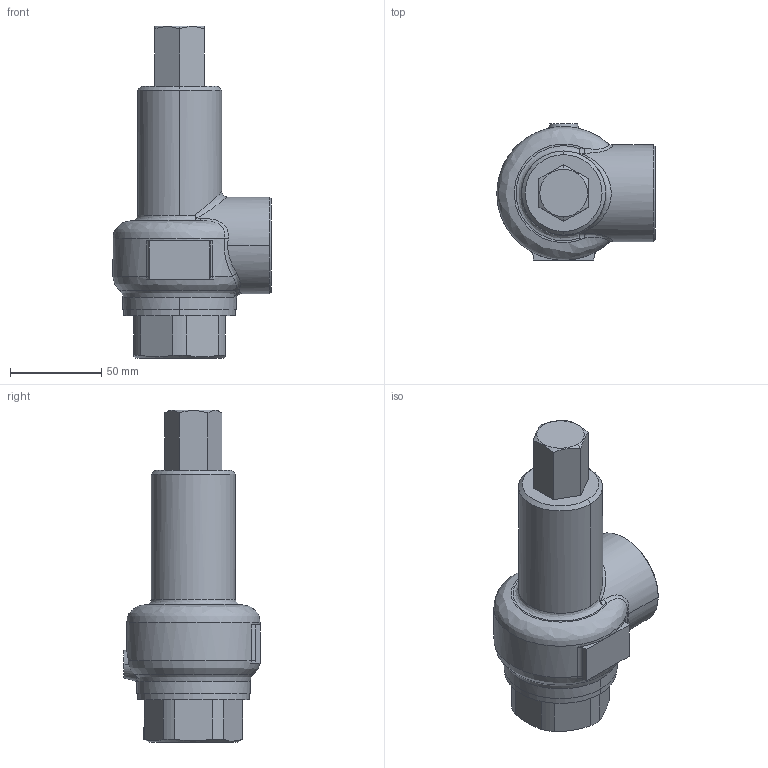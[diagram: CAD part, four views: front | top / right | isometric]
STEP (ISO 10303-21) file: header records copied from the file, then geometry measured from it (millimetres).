
FILE_DESCRIPTION( (''), '2;1');
FILE_NAME ('PC1027.9568.AL-140 32A_8242.stp','2025-07-28T13:40:44',(''),(''),'spGate 19.8.4 (****-****-****-****)','','');
FILE_SCHEMA (('AUTOMOTIVE_DESIGN'));
Length unit declared in the file: millimetre
Products named in the file (2): Assembly; AL-140 32A-3D
Assembly tree (1 placements, depth 2):
  Assembly
    AL-140 32A-3D
Bounding box: 86.49 x 74.5 x 181.5 mm (x, y, z)
Volume: 391741.8 mm3; surface area: 42303.5 mm2
Topology: 1 solids, 1 shells, 87 faces, 213 edges, 133 vertices
Faces by surface type: bspline 36, plane 30, cylinder 19, sphere 2
Entity records: 5651 total; most frequent: CARTESIAN_POINT 2120, ORIENTED_EDGE 426, DIRECTION 321, COLOUR_RGB 301, PRESENTATION_STYLE_ASSIGNMENT 301, STYLED_ITEM 301, EDGE_CURVE 213, DRAUGHTING_PRE_DEFINED_CURVE_FONT 213
